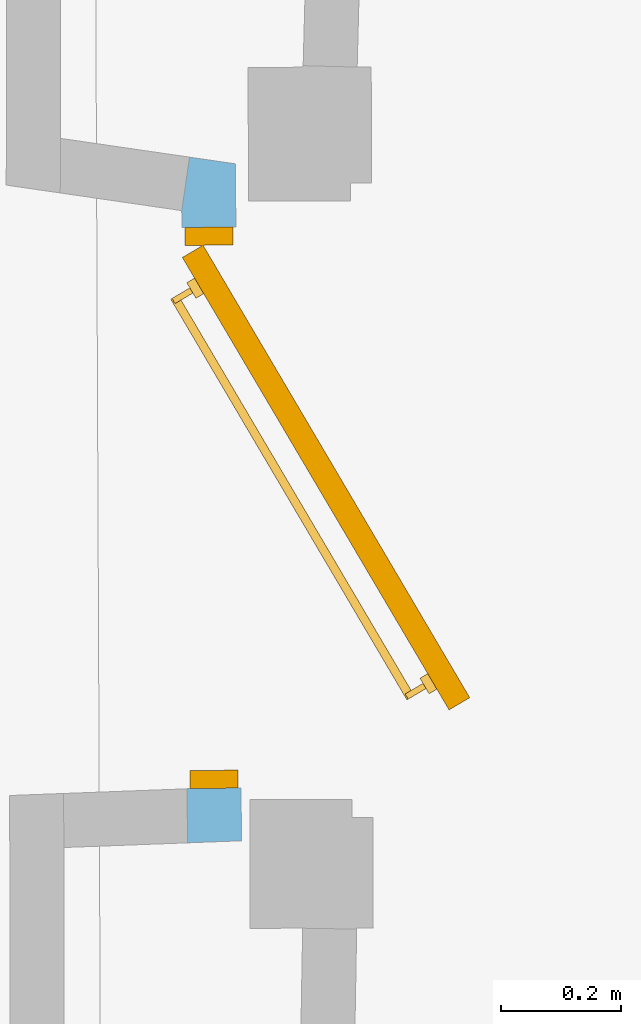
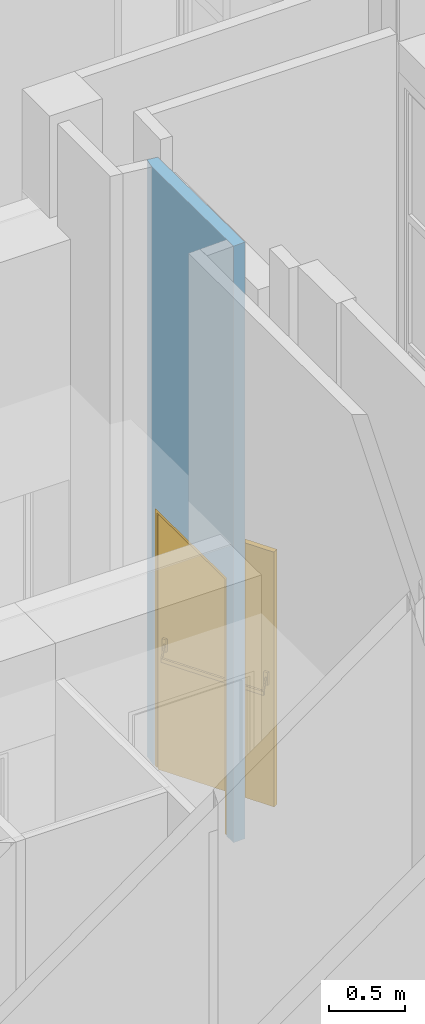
# One storey, part 58 of 97: 1 door, 1 opening, plus 1 element that does not belong to this part.
"""IFC2X3 building model written with IfcOpenShell, lengths in centimetres."""

from ifc_helpers import new_model, entity, si_unit, converted_unit, direction, frame, origin, origin_with_axes, place, context, subcontext, project, spatial, polyline, outline, extrude, faceted_brep, shape, source, transform, mapped, material, material_list, layer, layer_set, layer_usage, type_object, element, fill, save


model = new_model("IFC2X3")

# Units and contexts
model_context = context("Model", 3, precision=0.0001, world=origin(), true_north=direction((0.225632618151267, 0.974212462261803, 0.0)))
body_context = subcontext(model_context, "Body", "Model", "MODEL_VIEW")
footprint_context = subcontext(model_context, "FootPrint", "Model", "MODEL_VIEW")
profile_context = subcontext(model_context, "Profile", "Model", "MODEL_VIEW")
ifc_project = project(units=[si_unit("LENGTHUNIT", "METRE", prefix="CENTI"), si_unit("AREAUNIT", "SQUARE_METRE", prefix="CENTI"), si_unit("VOLUMEUNIT", "CUBIC_METRE", prefix="CENTI"), converted_unit("PLANEANGLEUNIT", "DEGREE", entity("IfcRatioMeasure", 0.0174532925), si_unit("PLANEANGLEUNIT", "RADIAN"), dimensions=[0, 0, 0, 0, 0, 0, 0])], contexts=[model_context])

# Site, building, storey
site_placement = place(None, origin_with_axes())
site = spatial("IfcSite", under=ifc_project, at=site_placement, Name="Default Site", CompositionType="ELEMENT")
building_placement = place(site_placement, origin_with_axes())
building = spatial("IfcBuilding", under=site, at=building_placement, Name="Default Building", CompositionType="ELEMENT")
storey_placement = place(building_placement, origin_with_axes())
storey = spatial("IfcBuildingStorey", under=building, at=storey_placement, Name="Rez-de-chaussée", CompositionType="ELEMENT", Elevation=0.0)

# Wall, opening, door
ifc_material_1 = material(Name="<aucun>")
ifc_layer = layer(ifc_material_1, 9.0)
ifc_layer_set = layer_set([ifc_layer], Name="default")
ifc_layer_usage = layer_usage(ifc_layer_set, "AXIS2", "POSITIVE", -4.5)
wall_type = type_object("IfcWallType", Name="default 90", PredefinedType="NOTDEFINED", material=ifc_layer_set)
wall_placement = place(storey_placement, frame((862.964533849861, 1.11332361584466, 0.0128503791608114), z_axis=(0.0, 0.0, 1.0), x_axis=(-0.00909136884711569, 0.999958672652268, 0.0)))
wall = element("IfcWallStandardCase", 1, at=wall_placement, inside=storey, type_object=wall_type, material=ifc_layer_usage, Name="Enveloppe 720961", context=body_context, shape_type="SweptSolid", body=[
    extrude(outline(polyline([(100.659972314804, 4.50000000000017), (-4.63137869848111, 4.49999999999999), (-4.37234813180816, -4.49999999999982), (108.374289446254, -4.49999999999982), (109.554095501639, 3.12356520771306), (100.659972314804, 4.50000000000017)])), origin_with_axes(), (0.0, 0.0, 1.0), 477.795358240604),
])
opening_placement = place(wall_placement, frame((4.40398725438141, 0.0, 0.0), z_axis=(0.0, 0.0, 1.0), x_axis=(1.0, -1.54390389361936e-16, 0.0)))
cartesian_point_1 = entity("IfcCartesianPoint", [6.93889390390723e-16, 0.0, 207.0])
cartesian_point_2 = entity("IfcCartesianPoint", [93.4553855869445, 4.49999999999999])
opening = element("IfcOpeningElement", 2, at=opening_placement, cuts=wall, Name="4294966351_11", ObjectType="Opening", shapes=[
    shape(body_context, "Body", "SweptSolid", [extrude(outline(polyline([(0.0, 207.0), (0.0, 0.0), (93.4553855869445, 0.0), (93.4553855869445, 207.0), (0.0, 207.0)])), frame((0.0, 14.5, 0.0), z_axis=(0.0, -1.0, 0.0), x_axis=(1.0, 0.0, 0.0)), (0.0, 0.0, 1.0), 29.0)]),
    shape(profile_context, "Profile", "GeometricCurveSet", [entity("IfcGeometricCurveSet", [entity("IfcPolyline", [cartesian_point_1, entity("IfcCartesianPoint", [6.93889390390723e-16, 0.0, 0.0]), entity("IfcCartesianPoint", [93.4553855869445, 0.0, 0.0]), entity("IfcCartesianPoint", [93.4553855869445, 0.0, 207.0]), cartesian_point_1])])]),
    shape(footprint_context, "FootPrint", "GeometricCurveSet", [entity("IfcGeometricCurveSet", [entity("IfcPolyline", [cartesian_point_2, entity("IfcCartesianPoint", [0.0, 4.49999999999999]), entity("IfcCartesianPoint", [1.38777878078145e-15, -4.49999999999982]), entity("IfcCartesianPoint", [93.4553855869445, -4.49999999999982]), cartesian_point_2])])]),
])
ifc_material_2 = material(Name="Aluminium satiné")
ifc_material_3 = material(Name="Blanc trafic")
ifc_material_list = material_list([ifc_material_2, ifc_material_3])
door_style = type_object("IfcDoorStyle", Name="Porte de Secours_1VB[1P]", ConstructionType="NOTDEFINED", OperationType="SINGLE_SWING_RIGHT", ParameterTakesPrecedence=True, Sizeable=False, material=ifc_material_list)
shared_shape = source(origin_with_axes(), body_context, "Body", "Brep", [
    faceted_brep([(46.7276930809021, 0.0, -3.99999991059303), (46.7276930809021, 0.0, 3.99999991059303), (43.7276929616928, 0.0, 3.99999991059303), (43.7276929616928, 0.0, -3.99999991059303), (43.7276929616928, 203.999996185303, 3.99999991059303), (43.7276929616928, 203.999996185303, -3.99999991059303), (46.7276930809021, 206.99999332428, 3.99999991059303), (46.7276930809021, 206.99999332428, -3.99999991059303), (-43.7276929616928, 203.999996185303, 3.99999991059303), (-43.7276929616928, 203.999996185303, -3.99999991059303), (-46.7276930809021, 206.99999332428, 3.99999991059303), (-46.7276930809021, 206.99999332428, -3.99999991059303), (-43.7276929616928, 0.0, -3.99999991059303), (-43.7276929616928, 0.0, 3.99999991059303), (-46.7276930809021, 0.0, 3.99999991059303), (-46.7276930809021, 0.0, -3.99999991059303)], [[[0, 1, 2, 3]], [[3, 2, 4, 5]], [[2, 1, 6, 4]], [[1, 0, 7, 6]], [[0, 3, 5, 7]], [[5, 4, 8, 9]], [[4, 6, 10, 8]], [[6, 7, 11, 10]], [[7, 5, 9, 11]], [[12, 13, 14, 15]], [[9, 8, 13, 12]], [[8, 10, 14, 13]], [[10, 11, 15, 14]], [[11, 9, 12, 15]]]),
    faceted_brep([(30.5467903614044, 107.000005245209, -37.2635900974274), (30.5467903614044, 97.0000028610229, -37.2635900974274), (27.9487163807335, 97.0000028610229, -35.7635913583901), (27.9487163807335, 107.000005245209, -35.7635913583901), (28.6987155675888, 107.000005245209, -34.4645529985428), (28.6987155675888, 97.0000028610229, -34.4645529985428), (31.2967917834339, 97.0000028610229, -35.9645530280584), (31.2967917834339, 107.000005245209, -35.9645530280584), (27.9487162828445, 107.000005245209, -35.7635915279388), (27.9487162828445, 97.0000028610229, -35.7635915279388), (28.6987162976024, 97.0000028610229, -34.4645534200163), (28.6987162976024, 107.000005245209, -34.4645534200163), (31.2967926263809, 97.0000028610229, -35.9645515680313), (31.2967911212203, 107.000005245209, -35.9645506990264), (31.2967911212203, 97.0000028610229, -35.9645506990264), (31.2967926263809, 107.000005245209, -35.9645515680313)], [[[0, 1, 2, 3]], [[4, 5, 6, 7]], [[8, 9, 10, 11]], [[9, 1, 12, 5]], [[1, 0, 13, 14]], [[0, 8, 4, 15]]]),
    faceted_brep([(30.4307669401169, 103.250002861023, -35.4645520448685), (30.4307669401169, 100.750005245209, -35.4645520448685), (29.5647415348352, 100.750005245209, -34.9645520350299), (29.5647415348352, 103.250002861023, -34.9645520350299), (31.2920123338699, 93.75, -31.9728285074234), (30.8374673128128, 93.75, -32.7601253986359), (31.7034929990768, 93.75, -33.2601249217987), (32.158038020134, 93.75, -32.4728280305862), (29.5647412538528, 103.250002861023, -34.9645525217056), (29.5647412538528, 100.750005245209, -34.9645525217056), (30.8374677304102, 93.75, -32.7601256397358), (31.2920135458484, 93.75, -31.9728292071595), (30.4307666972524, 100.75000506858, -35.4645524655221), (31.7034942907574, 93.750000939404, -33.2601226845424), (30.8374688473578, 93.7500011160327, -32.7601227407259), (32.1580392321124, 93.75, -32.4728287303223), (31.7034934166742, 93.75, -33.2601251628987), (29.5647414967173, 103.250003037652, -34.964552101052), (31.2920134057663, 93.750000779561, -31.9728266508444), (32.1580388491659, 93.7500006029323, -32.4728265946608)], [[[0, 1, 2, 3]], [[4, 5, 6, 7]], [[8, 9, 10, 11]], [[9, 12, 13, 14]], [[1, 0, 15, 16]], [[0, 17, 18, 19]]]),
    faceted_brep([(-35.6655150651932, 107.000005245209, 0.96410159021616), (-35.6655150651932, 97.0000028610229, 0.96410159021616), (-38.2635919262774, 97.0000028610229, 2.46410199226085), (-38.2635919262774, 107.000005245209, 2.46410199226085), (-37.5135898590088, 107.000005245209, 3.76313962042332), (-37.5135898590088, 97.0000028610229, 3.76313962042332), (-34.9155153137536, 97.0000028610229, 2.26314055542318), (-34.9155153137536, 107.000005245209, 2.26314055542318), (-38.2635921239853, 107.000005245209, 2.4641016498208), (-38.2635921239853, 97.0000028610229, 2.4641016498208), (-37.5135916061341, 97.0000028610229, 3.7631406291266), (-37.5135916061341, 107.000005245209, 3.7631406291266), (-34.9155157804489, 97.0000028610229, 2.26313974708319), (-34.9155152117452, 107.000005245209, 2.26313941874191), (-34.9155152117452, 97.0000028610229, 2.26313941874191), (-34.9155157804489, 107.000005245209, 2.26313974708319)], [[[0, 1, 2, 3]], [[4, 5, 6, 7]], [[8, 9, 10, 11]], [[9, 1, 12, 5]], [[1, 0, 13, 14]], [[0, 8, 4, 15]]]),
    faceted_brep([(-35.781541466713, 103.250002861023, 2.76313964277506), (-35.781541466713, 100.750005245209, 2.76313964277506), (-36.6475671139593, 100.750005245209, 3.263139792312), (-36.6475671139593, 103.250002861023, 3.263139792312), (-34.9202930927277, 93.75, 6.25486373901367), (-35.3748381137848, 93.75, 5.4675679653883), (-34.5088124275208, 93.75, 4.96756806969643), (-34.0542674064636, 93.75, 5.7548638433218), (-36.647567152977, 103.250002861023, 3.26313972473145), (-36.647567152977, 100.750005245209, 3.26313972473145), (-35.3748394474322, 93.75, 5.46756873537), (-34.9202941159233, 93.75, 6.25486432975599), (-35.7815414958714, 100.750005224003, 2.76313959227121), (-34.5088120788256, 93.7500002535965, 4.96756867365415), (-35.3748376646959, 93.7500003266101, 5.46756874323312), (-34.0542683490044, 93.75, 5.75486438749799), (-34.5088136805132, 93.75, 4.967568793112), (-36.6475671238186, 103.250002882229, 3.26313977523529), (-34.9202928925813, 93.750000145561, 6.25486408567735), (-34.054267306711, 93.7500000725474, 5.75486401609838)], [[[0, 1, 2, 3]], [[4, 5, 6, 7]], [[8, 9, 10, 11]], [[9, 12, 13, 14]], [[1, 0, 15, 16]], [[0, 17, 18, 19]]]),
    faceted_brep([(31.5807670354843, 90.7500028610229, -33.4726959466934), (31.5807670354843, 93.75, -33.4726959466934), (32.2807671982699, 93.75, -32.2602601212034), (32.2807671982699, 90.7500028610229, -32.2602601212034), (-34.7975671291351, 90.7500028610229, 6.46743401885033), (-34.7975671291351, 93.75, 6.46743401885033), (-35.4975672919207, 93.75, 5.25499819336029), (-35.4975672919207, 90.7500028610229, 5.25499819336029), (32.2807669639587, 90.7500028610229, -32.2602599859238), (32.2807669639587, 93.75, -32.2602599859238), (-34.7975667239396, 93.75, 6.46743472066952), (-34.7975667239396, 90.7500028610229, 6.46743472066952), (-35.4975670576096, 93.75, 5.25499805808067), (-35.4975666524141, 90.7500028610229, 5.25499875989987), (-35.4975666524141, 93.75, 5.25499875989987), (-35.4975670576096, 90.7500028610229, 5.25499805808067)], [[[0, 1, 2, 3]], [[4, 5, 6, 7]], [[8, 9, 10, 11]], [[9, 1, 12, 5]], [[1, 0, 13, 14]], [[0, 8, 4, 15]]]),
    faceted_brep([(32.010892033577, 203.999996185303, -42.7276939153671), (32.010892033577, 0.0, -42.7276939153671), (-43.7276932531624, 4.29293207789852e-25, 0.999999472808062), (-43.7276932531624, 203.999996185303, 0.999999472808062), (-41.7276918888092, 203.999996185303, 4.46410179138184), (-41.7276918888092, 0.0, 4.46410179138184), (34.0108929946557, 0.0, -39.2635913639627), (34.0108929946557, 203.999996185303, -39.2635913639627), (-43.7276929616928, 203.999996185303, 0.999999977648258), (-43.7276929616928, 0.0, 0.999999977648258), (-41.727692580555, -3.39614341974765e-25, 4.46410219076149), (-41.727692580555, 203.999996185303, 4.46410219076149), (34.0108931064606, 0.0, -39.263591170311), (34.0108928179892, 203.999996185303, -39.263591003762), (34.0108928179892, 4.53202294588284e-24, -39.263591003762), (34.0108931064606, 203.999996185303, -39.263591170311)], [[[0, 1, 2, 3]], [[4, 5, 6, 7]], [[8, 9, 10, 11]], [[9, 1, 12, 5]], [[1, 0, 13, 14]], [[0, 8, 4, 15]]]),
])
door_placement = place(opening_placement, frame((-8.88178419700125e-16, -4.0, 0.0), z_axis=(0.0, 0.0, 1.0), x_axis=(1.0, 0.0, 0.0)))
door = element("IfcDoor", 3, at=door_placement, inside=storey, type_object=door_style, material=ifc_material_list, Name="Porte 23828", OverallHeight=207.0, OverallWidth=93.4553855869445, context=body_context, shape_type="MappedRepresentation", body=[
    mapped(shared_shape, transform((46.7276927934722, 3.99999999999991, 0.0), x_axis=(-1.0, 0.0, 0.0), y_axis=(0.0, 0.0, 1.0), z_axis=(0.0, 1.0, 0.0), scale=1.0, scale2=1.0, scale3=1.0, uniform=False)),
])
fill(opening, door)

save(model, "model.ifc")
